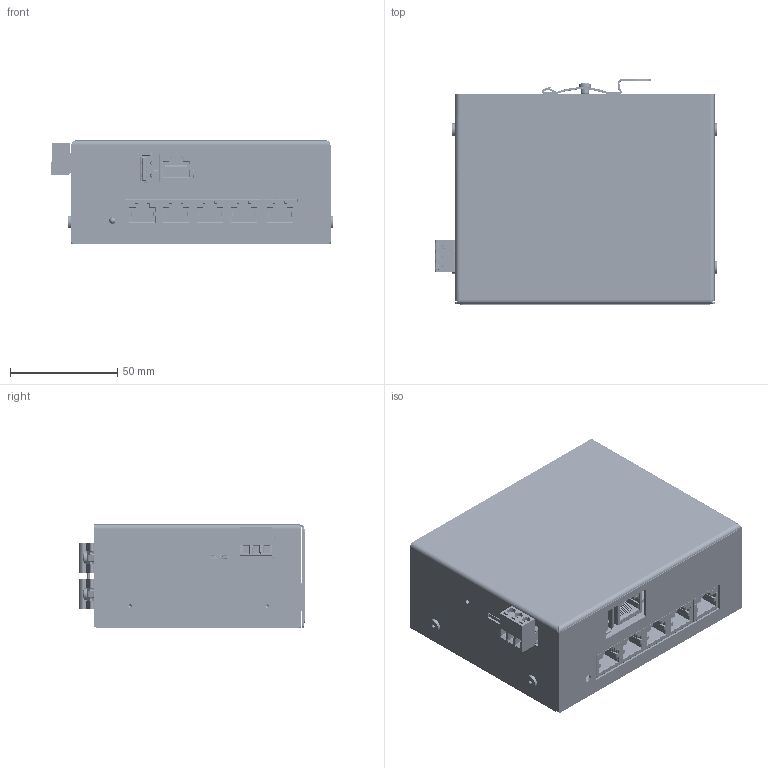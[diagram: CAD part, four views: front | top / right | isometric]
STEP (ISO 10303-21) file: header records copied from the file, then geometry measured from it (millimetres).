
FILE_DESCRIPTION(/* description */ (''),/* implementation_level */ '2;1');
FILE_NAME(/* name */ 'PPH600-31A_20260706.stp',/* time_stamp */ '2026-07-06T14:57:23+02:00',/* author */ ('ut3'),/* organization */ (''),/* preprocessor_version */ 'ST-DEVELOPER v20.1',/* originating_system */ 'Autodesk Inventor 2026',/* authorisation */ '');
FILE_SCHEMA (('AUTOMOTIVE_DESIGN { 1 0 10303 214 3 1 1 }'));
Products named in the file (335): PPH_5_V3; 0; 0_1; 0_2; 0_3; 0_4; 0_5; 0_6; 0_7; 0_8; 0_9; 0_10; 0_11; 0_12; ASSEMBLY; Fillet1; Fillet2; body2; 482040001; DCK0005A_ASM; BODY-SOT; LEAD-SOT; PIN1-ID; 0_13; 0_14; 0_15; DCK0005A_ASM_1; BODY-SOT_1; LEAD-SOT_1; PIN1-ID_1; 0_16; 0_17; 0_18; 0_19; 1210AC103KAT1A; 0_20; 0_21; 0_22; 0_23; 0_24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
Assembly tree (663 placements, depth 5):
  PPH_5_V3
    0
      0_1
        0_2
        0_3
        0_4
        0_5
        0_6
        0_7
        0_8
      0_9
      0_10
      0_11
      ASSEMBLY_29  x94
        Fillet1_10
        Fillet2_10
        body2_10
      0_12
      ASSEMBLY_30  x6
        Fillet1_11
        Fillet2_11
        body2_11
      ASSEMBLY  x2
        Fillet1
        Fillet2
        body2
      ASSEMBLY_15  x4
        Fillet1_7
        Fillet2_7
        body2_7
      482040001
      1210AC103KAT1A  x4
      ASSEMBLY_14  x19
        Fillet1_6
        Fillet2_6
        body2_6
      ASSEMBLY_27  x8
        Fillet1_8
        Fillet2_8
        body2_8
      DCK0005A_ASM_1  x2
        BODY-SOT_1
        LEAD-SOT_1
        PIN1-ID_1
      DCK0005A_ASM
        BODY-SOT
        LEAD-SOT  x5
        PIN1-ID
      0_13
      0_14
      0_15
      0_16
      0_17
      0_18
      0_19
      ASSEMBLY_28  x5
        Fillet1_9
        Fillet2_9
        body2_9
      0_20
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Bounding box: 131.78 x 105.18 x 48 mm (x, y, z)
Volume: 90046.5 mm3; surface area: 277952.4 mm2
Topology: 1556 solids, 24216 shells, 47337 faces, 167080 edges, 144219 vertices
Faces by surface type: cylinder 25976, plane 19203, sphere 1506, bspline 315, cone 223, torus 114
Full cylindrical faces by diameter (mm): 0.15 x2, 0.156 x1, 0.4 x4, 0.45 x40, 0.5 x2, 0.585 x2, 0.6 x6, 0.625 x2, 0.64 x4, 0.7 x2, 0.8 x1, 1.016 x4, 1.25 x2, 1.5 x4, 1.6 x3, 1.8 x2, 2 x8, 2.3 x1, 2.459 x4, 2.5 x9, 3 x5, 3.2 x2, 3.25 x2, 3.3 x1, 3.4 x4, 3.5 x1, 3.6 x2, 3.621 x2, 3.7 x3, 3.85 x3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
Entity records: 1588003 total; most frequent: CARTESIAN_POINT 355716, DIRECTION 266964, ORIENTED_EDGE 165078, EDGE_CURVE 136362, VERTEX_POINT 126277, AXIS2_PLACEMENT_3D 96385, LINE 74194, VECTOR 74194
